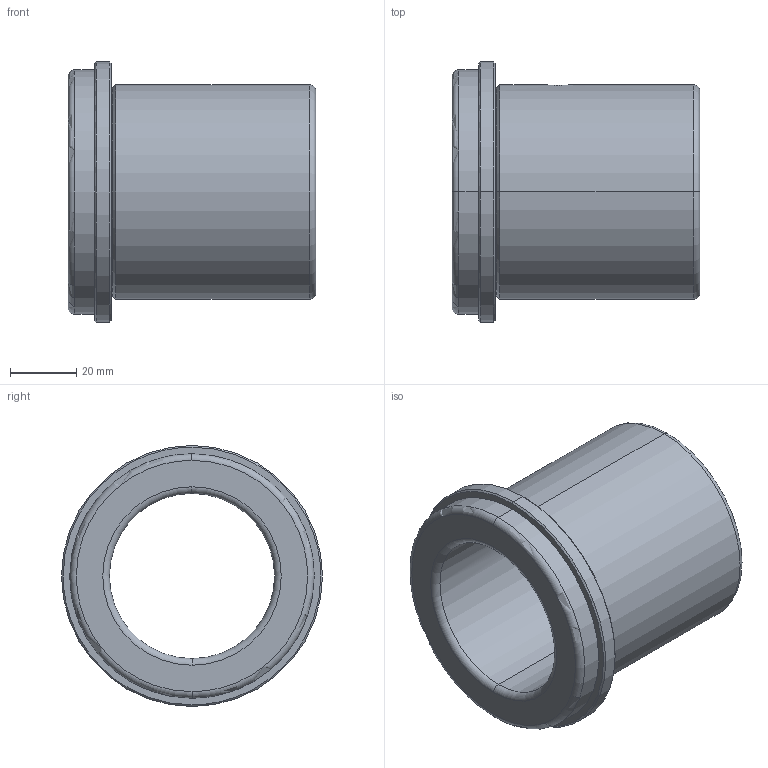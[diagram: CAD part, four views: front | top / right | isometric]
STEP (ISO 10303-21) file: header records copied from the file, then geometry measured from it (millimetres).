
FILE_DESCRIPTION(('CATIA V5 STEP Exchange'),'2;1');
FILE_NAME('C:\Users\Utente\Desktop\IO LAVORO\3D X SITO CF\X SITO\FAMO\FAMO-SF1-B50 x 75.stp','2021-01-06T17:11:25+00:00',('none'),('none'),'CATIA Version 5 Release 20 GA (IN-10)','CATIA V5 STEP AP203','none');
FILE_SCHEMA(('CONFIG_CONTROL_DESIGN'));
Length unit declared in the file: millimetre
Products named in the file (1): FAMO-SF1-B50 x 75
Bounding box: 75 x 79 x 79 mm (x, y, z)
Volume: 115728.8 mm3; surface area: 33280.3 mm2
Topology: 1 solids, 1 shells, 33 faces, 114 edges, 86 vertices
Faces by surface type: cylinder 12, torus 8, cone 8, plane 5
Entity records: 1562 total; most frequent: CARTESIAN_POINT 544, ORIENTED_EDGE 228, DIRECTION 157, EDGE_CURVE 114, AXIS2_PLACEMENT_3D 105, VERTEX_POINT 86, CIRCLE 71, EDGE_LOOP 40
